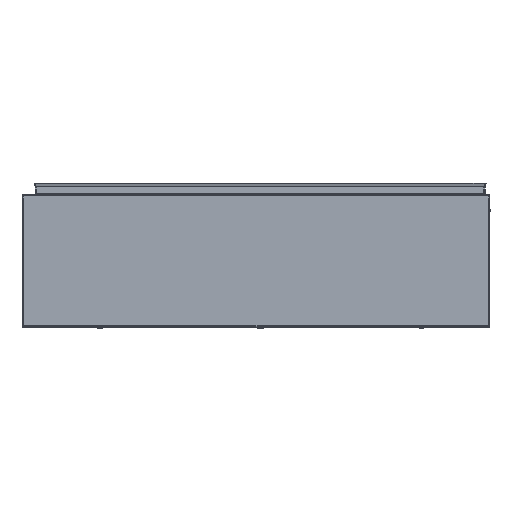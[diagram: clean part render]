
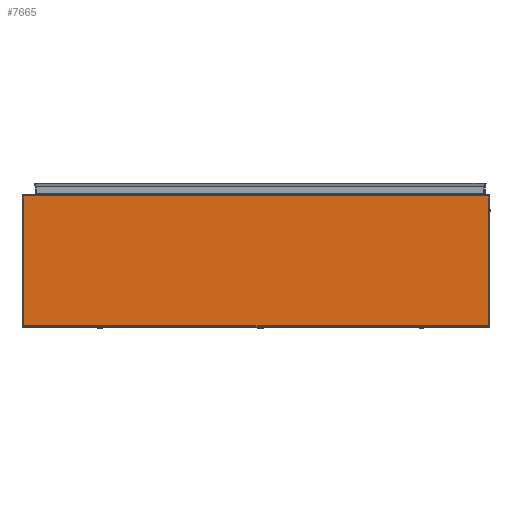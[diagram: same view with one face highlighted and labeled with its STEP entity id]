
A CAD part, left-side view. The second image highlights one B-rep face of the part: STEP entity #7665.
In plain terms, the highlighted planar face has unit normal (-1, 0, 0).
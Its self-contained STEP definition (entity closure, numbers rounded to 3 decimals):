
#234 = EDGE_CURVE ( 'NONE', #2664, #15883, #16204, .T. ) ;
#650 = FACE_OUTER_BOUND ( 'NONE', #4625, .T. ) ;
#1874 = VERTEX_POINT ( 'NONE', #8407 ) ;
#2004 = CARTESIAN_POINT ( 'NONE',  ( -402., 484.321, 3.353 ) ) ;
#2045 = CARTESIAN_POINT ( 'NONE',  ( -402., 484.321, 273.311 ) ) ;
#2327 = VECTOR ( 'NONE', #9604, 1000. ) ;
#2497 = CARTESIAN_POINT ( 'NONE',  ( -402., -483.147, 237.448 ) ) ;
#2627 = LINE ( 'NONE', #6862, #8555 ) ;
#2664 = VERTEX_POINT ( 'NONE', #8659 ) ;
#3106 = LINE ( 'NONE', #8280, #6075 ) ;
#3396 = VECTOR ( 'NONE', #12004, 1000. ) ;
#3430 = ORIENTED_EDGE ( 'NONE', *, *, #6973, .T. ) ;
#3590 = EDGE_CURVE ( 'NONE', #11724, #2664, #3106, .T. ) ;
#3792 = LINE ( 'NONE', #5730, #3396 ) ;
#4091 = VECTOR ( 'NONE', #4871, 1000. ) ;
#4179 = ORIENTED_EDGE ( 'NONE', *, *, #9515, .F. ) ;
#4625 = EDGE_LOOP ( 'NONE', ( #7399, #14236, #15803, #5210, #4179, #3430, #8428, #4904 ) ) ;
#4695 = DIRECTION ( 'NONE',  ( 0., 0., 1. ) ) ;
#4871 = DIRECTION ( 'NONE',  ( 0., 0., 1. ) ) ;
#4904 = ORIENTED_EDGE ( 'NONE', *, *, #234, .T. ) ;
#5210 = ORIENTED_EDGE ( 'NONE', *, *, #8872, .F. ) ;
#5694 = DIRECTION ( 'NONE',  ( 0., -1., 0. ) ) ;
#5730 = CARTESIAN_POINT ( 'NONE',  ( -402., 484.321, 276.664 ) ) ;
#5756 = CARTESIAN_POINT ( 'NONE',  ( -402., -484.321, 276.664 ) ) ;
#5924 = PLANE ( 'NONE',  #8229 ) ;
#6075 = VECTOR ( 'NONE', #5694, 1000. ) ;
#6141 = EDGE_CURVE ( 'NONE', #16121, #8706, #2627, .T. ) ;
#6853 = EDGE_CURVE ( 'NONE', #15883, #10320, #8734, .T. ) ;
#6862 = CARTESIAN_POINT ( 'NONE',  ( -402., 484.321, 237.448 ) ) ;
#6973 = EDGE_CURVE ( 'NONE', #9165, #11724, #3792, .T. ) ;
#7014 = DIRECTION ( 'NONE',  ( 0., 0., -1. ) ) ;
#7391 = CARTESIAN_POINT ( 'NONE',  ( -402., 483.147, 237.448 ) ) ;
#7399 = ORIENTED_EDGE ( 'NONE', *, *, #6853, .T. ) ;
#7582 = CARTESIAN_POINT ( 'NONE',  ( -402., 484.321, 237.448 ) ) ;
#7665 = ADVANCED_FACE ( 'NONE', ( #650 ), #5924, .T. ) ;
#8132 = CARTESIAN_POINT ( 'NONE',  ( -402., -483.147, 3.353 ) ) ;
#8135 = DIRECTION ( 'NONE',  ( 0., -1., 0. ) ) ;
#8229 = AXIS2_PLACEMENT_3D ( 'NONE', #9737, #12247, #4695 ) ;
#8279 = DIRECTION ( 'NONE',  ( 0., -1., 0. ) ) ;
#8280 = CARTESIAN_POINT ( 'NONE',  ( -402., 484.321, 237.448 ) ) ;
#8407 = CARTESIAN_POINT ( 'NONE',  ( -402., -484.321, 273.311 ) ) ;
#8428 = ORIENTED_EDGE ( 'NONE', *, *, #3590, .T. ) ;
#8468 = VECTOR ( 'NONE', #7014, 1000. ) ;
#8555 = VECTOR ( 'NONE', #8135, 1000. ) ;
#8659 = CARTESIAN_POINT ( 'NONE',  ( -402., 483.147, 237.448 ) ) ;
#8706 = VERTEX_POINT ( 'NONE', #15397 ) ;
#8734 = LINE ( 'NONE', #2004, #15042 ) ;
#8872 = EDGE_CURVE ( 'NONE', #1874, #8706, #11810, .T. ) ;
#9165 = VERTEX_POINT ( 'NONE', #13969 ) ;
#9515 = EDGE_CURVE ( 'NONE', #9165, #1874, #12377, .T. ) ;
#9517 = VECTOR ( 'NONE', #12460, 1000. ) ;
#9604 = DIRECTION ( 'NONE',  ( 0., -1., 0. ) ) ;
#9737 = CARTESIAN_POINT ( 'NONE',  ( -402., 484.321, 276.664 ) ) ;
#10320 = VERTEX_POINT ( 'NONE', #8132 ) ;
#10827 = LINE ( 'NONE', #14969, #4091 ) ;
#11724 = VERTEX_POINT ( 'NONE', #7582 ) ;
#11810 = LINE ( 'NONE', #5756, #8468 ) ;
#12004 = DIRECTION ( 'NONE',  ( 0., 0., -1. ) ) ;
#12235 = EDGE_CURVE ( 'NONE', #10320, #16121, #10827, .T. ) ;
#12247 = DIRECTION ( 'NONE',  ( -1., 0., 0. ) ) ;
#12377 = LINE ( 'NONE', #2045, #2327 ) ;
#12460 = DIRECTION ( 'NONE',  ( 0., 0., -1. ) ) ;
#13969 = CARTESIAN_POINT ( 'NONE',  ( -402., 484.321, 273.311 ) ) ;
#14236 = ORIENTED_EDGE ( 'NONE', *, *, #12235, .T. ) ;
#14688 = CARTESIAN_POINT ( 'NONE',  ( -402., 483.147, 3.353 ) ) ;
#14969 = CARTESIAN_POINT ( 'NONE',  ( -402., -483.147, 3.353 ) ) ;
#15042 = VECTOR ( 'NONE', #8279, 1000. ) ;
#15397 = CARTESIAN_POINT ( 'NONE',  ( -402., -484.321, 237.448 ) ) ;
#15803 = ORIENTED_EDGE ( 'NONE', *, *, #6141, .T. ) ;
#15883 = VERTEX_POINT ( 'NONE', #14688 ) ;
#16121 = VERTEX_POINT ( 'NONE', #2497 ) ;
#16204 = LINE ( 'NONE', #7391, #9517 ) ;
